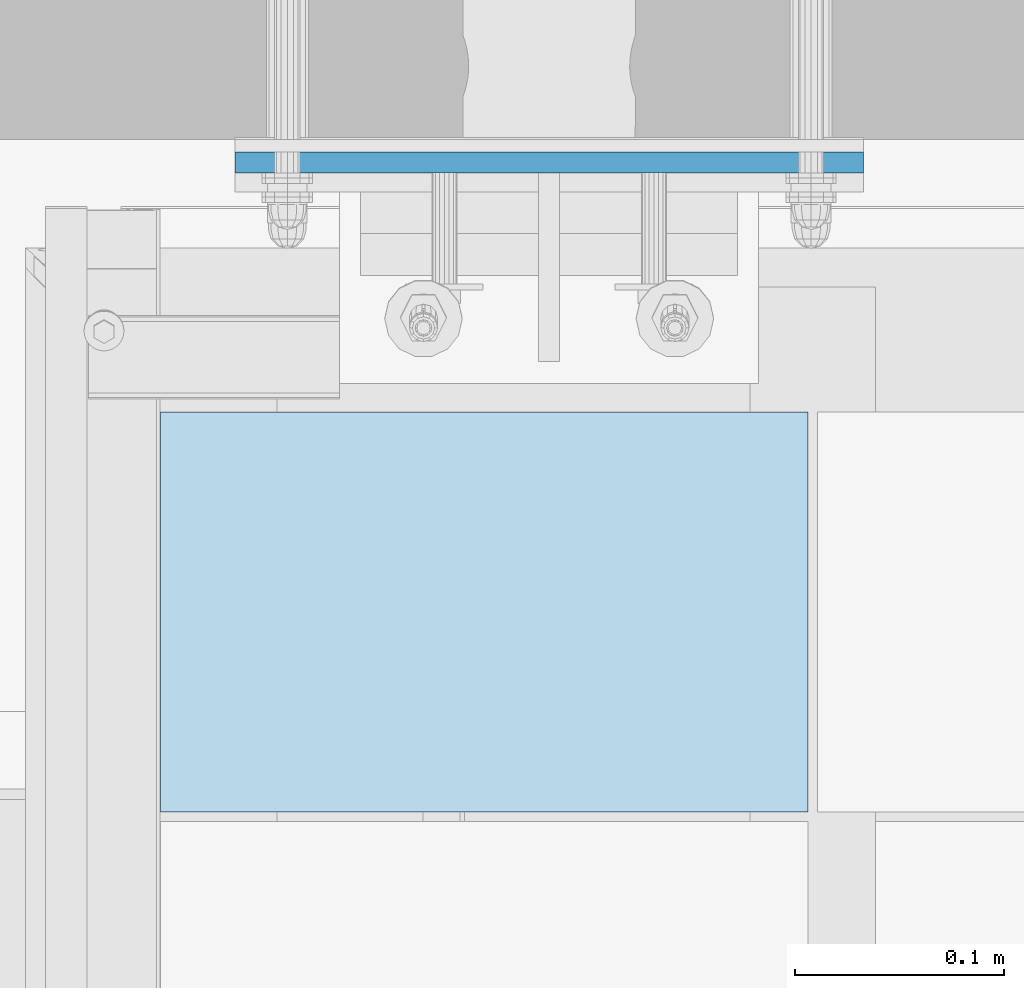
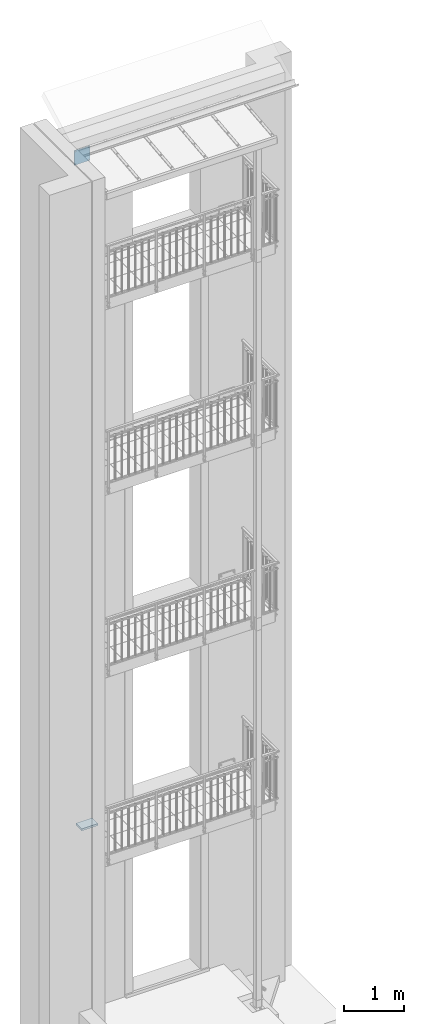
# One storey, part 62 of 162: 2 plates, 4 openings.
"""IFC2X3 building model written with IfcOpenShell, lengths in millimetres."""

from ifc_helpers import new_model, entity, si_unit, converted_unit, frame, frame_2d, origin, origin_with_axes, place, context, project, spatial, polyline, circle, outline, extrude, material, layer, layer_set, element, save


model = new_model("IFC2X3")

# Units and contexts
model_context = context("Model", 3, precision=1e-09, world=origin_with_axes())
ifc_project = project(units=[si_unit("LENGTHUNIT", "METRE", prefix="MILLI"), si_unit("AREAUNIT", "SQUARE_METRE"), si_unit("VOLUMEUNIT", "CUBIC_METRE"), converted_unit("PLANEANGLEUNIT", "DEGREE", entity("IfcPlaneAngleMeasure", 0.01745329), si_unit("PLANEANGLEUNIT", "RADIAN"), dimensions=[0, 0, 0, 0, 0, 0, 0])], contexts=[model_context])

# Site, building, storey
site_placement = place(None, origin_with_axes())
site = spatial("IfcSite", under=ifc_project, at=site_placement, Name="Hermannstra?e 1a, 60318 Frankfurt", CompositionType="ELEMENT")
building_placement = place(site_placement, origin_with_axes())
building = spatial("IfcBuilding", under=site, at=building_placement, Name="Struktur 1", CompositionType="ELEMENT")
storey_placement = place(building_placement, origin_with_axes())
storey = spatial("IfcBuildingStorey", under=building, at=storey_placement, Name="Default Storey", CompositionType="ELEMENT", Elevation=0.0)

# Plate
ifc_material_1 = material(Name="BWS")
ifc_layer_1 = layer(ifc_material_1, 40.0)
ifc_layer_set_1 = layer_set([ifc_layer_1], Name="BWS")
plate_1_placement = place(None, frame((2526.80936482, 2814.609373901, 3949.0), z_axis=(0.0, 0.0, -1.0), x_axis=(1.0, 0.0, 0.0)))
element("IfcPlate", 1, at=plate_1_placement, inside=storey, material=ifc_layer_set_1, Name="-", ObjectType="-", context=model_context, shape_type="SweptSolid", body=[
    extrude(outline(polyline([(91.0, 209.0), (400.0, 209.0), (400.0, 400.0), (91.0, 400.0), (91.0, 209.0)])), origin_with_axes(), (0.0, 0.0, 1.0), 40.0),
])

# Plate, openings
ifc_material_2 = material(Name="S235JR")
ifc_layer_2 = layer(ifc_material_2, 10.0)
ifc_layer_set_2 = layer_set([ifc_layer_2], Name="S235JR")
plate_2_placement = place(None, frame((2803.309364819, 2729.609373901, 17341.999), z_axis=(0.0, -1.0, 0.0), x_axis=(1.0, 0.0, 0.0)))
plate_2 = element("IfcPlate", 2, at=plate_2_placement, inside=storey, material=ifc_layer_set_2, Name="-", ObjectType="-", context=model_context, shape_type="SweptSolid", body=[
    extrude(outline(polyline([(-150.0, -150.0), (150.0, -150.0), (150.0, 150.0), (-150.0, 150.0), (-150.0, -150.0)])), origin_with_axes(), (0.0, 0.0, 1.0), 10.0),
])
opening_1_placement = place(plate_2_placement, frame((0.0, 0.0, -0.5), z_axis=(0.0, 0.0, 1.0), x_axis=(1.0, 0.0, 0.0)))
element("IfcOpeningElement", 3, at=opening_1_placement, cuts=plate_2, ObjectType="Opening", context=model_context, shape_type="SweptSolid", body=[
    extrude(circle(Radius=8.001, at=frame_2d((125.0, 125.0), x_axis=(1.0, 0.0))), origin(), (0.0, 0.0, 1.0), 11.0),
])
opening_2_placement = place(plate_2_placement, frame((0.0, 0.0, -0.5), z_axis=(0.0, 0.0, 1.0), x_axis=(1.0, 0.0, 0.0)))
element("IfcOpeningElement", 4, at=opening_2_placement, cuts=plate_2, ObjectType="Opening", context=model_context, shape_type="SweptSolid", body=[
    extrude(circle(Radius=8.001, at=frame_2d((-125.0, 125.0), x_axis=(1.0, 0.0))), origin(), (0.0, 0.0, 1.0), 11.0),
])
opening_3_placement = place(plate_2_placement, frame((0.0, 0.0, -0.5), z_axis=(0.0, 0.0, 1.0), x_axis=(1.0, 0.0, 0.0)))
element("IfcOpeningElement", 5, at=opening_3_placement, cuts=plate_2, ObjectType="Opening", context=model_context, shape_type="SweptSolid", body=[
    extrude(circle(Radius=8.001, at=frame_2d((125.0, -125.0), x_axis=(1.0, 0.0))), origin(), (0.0, 0.0, 1.0), 11.0),
])
opening_4_placement = place(plate_2_placement, frame((0.0, 0.0, -0.5), z_axis=(0.0, 0.0, 1.0), x_axis=(1.0, 0.0, 0.0)))
element("IfcOpeningElement", 6, at=opening_4_placement, cuts=plate_2, ObjectType="Opening", context=model_context, shape_type="SweptSolid", body=[
    extrude(circle(Radius=8.001, at=frame_2d((-125.0, -125.0), x_axis=(1.0, 0.0))), origin(), (0.0, 0.0, 1.0), 11.0),
])

save(model, "model.ifc")
